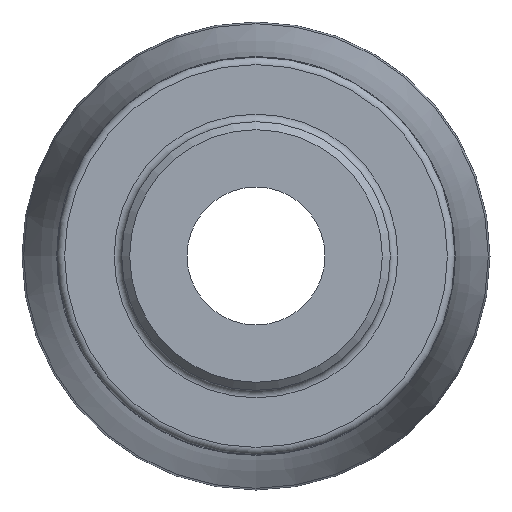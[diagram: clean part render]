
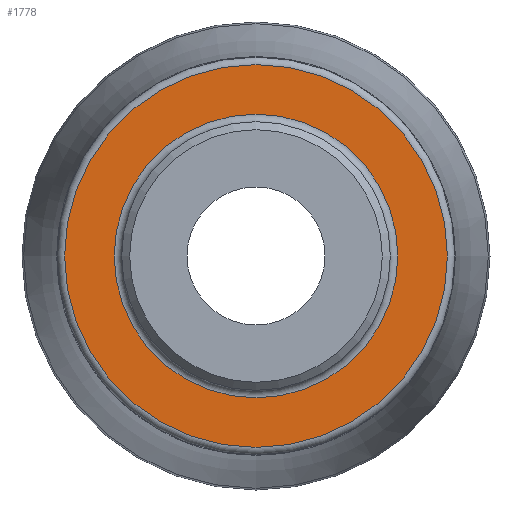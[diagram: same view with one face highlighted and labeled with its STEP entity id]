
A CAD part, left-side view. The second image highlights one B-rep face of the part: STEP entity #1778.
In plain terms, the highlighted planar face has unit normal (-1, 0, 0).
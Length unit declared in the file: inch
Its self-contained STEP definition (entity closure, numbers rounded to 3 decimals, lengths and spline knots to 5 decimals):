
#93=FACE_BOUND('',#322,.T.);
#105=PLANE('',#1973);
#219=FACE_OUTER_BOUND('',#321,.T.);
#321=EDGE_LOOP('',(#1336,#1337));
#322=EDGE_LOOP('',(#1338,#1339));
#639=CIRCLE('',#1971,0.69093);
#640=CIRCLE('',#1972,0.69093);
#641=CIRCLE('',#1974,0.93258);
#642=CIRCLE('',#1975,0.93258);
#770=VERTEX_POINT('',#3158);
#771=VERTEX_POINT('',#3160);
#772=VERTEX_POINT('',#3164);
#773=VERTEX_POINT('',#3165);
#976=EDGE_CURVE('',#770,#771,#639,.T.);
#977=EDGE_CURVE('',#771,#770,#640,.T.);
#978=EDGE_CURVE('',#772,#773,#641,.T.);
#979=EDGE_CURVE('',#773,#772,#642,.T.);
#1336=ORIENTED_EDGE('',*,*,#978,.F.);
#1337=ORIENTED_EDGE('',*,*,#979,.F.);
#1338=ORIENTED_EDGE('',*,*,#977,.F.);
#1339=ORIENTED_EDGE('',*,*,#976,.F.);
#1778=ADVANCED_FACE('',(#219,#93),#105,.T.);
#1971=AXIS2_PLACEMENT_3D('',#3161,#2313,#2314);
#1972=AXIS2_PLACEMENT_3D('',#3162,#2315,#2316);
#1973=AXIS2_PLACEMENT_3D('',#3163,#2317,#2318);
#1974=AXIS2_PLACEMENT_3D('',#3166,#2319,#2320);
#1975=AXIS2_PLACEMENT_3D('',#3167,#2321,#2322);
#2313=DIRECTION('center_axis',(-1.,0.,0.));
#2314=DIRECTION('ref_axis',(0.,-1.,0.));
#2315=DIRECTION('center_axis',(-1.,0.,0.));
#2316=DIRECTION('ref_axis',(0.,-1.,0.));
#2317=DIRECTION('center_axis',(-1.,0.,0.));
#2318=DIRECTION('ref_axis',(0.,0.,1.));
#2319=DIRECTION('center_axis',(1.,0.,0.));
#2320=DIRECTION('ref_axis',(0.,-1.,0.));
#2321=DIRECTION('center_axis',(1.,0.,0.));
#2322=DIRECTION('ref_axis',(0.,-1.,0.));
#3158=CARTESIAN_POINT('',(0.75,0.,0.69093));
#3160=CARTESIAN_POINT('',(0.75,0.69093,0.));
#3161=CARTESIAN_POINT('Origin',(0.75,0.,0.));
#3162=CARTESIAN_POINT('Origin',(0.75,0.,0.));
#3163=CARTESIAN_POINT('Origin',(0.75,0.969,0.));
#3164=CARTESIAN_POINT('',(0.75,0.93258,0.));
#3165=CARTESIAN_POINT('',(0.75,0.,0.93258));
#3166=CARTESIAN_POINT('Origin',(0.75,0.,0.));
#3167=CARTESIAN_POINT('Origin',(0.75,0.,0.));
